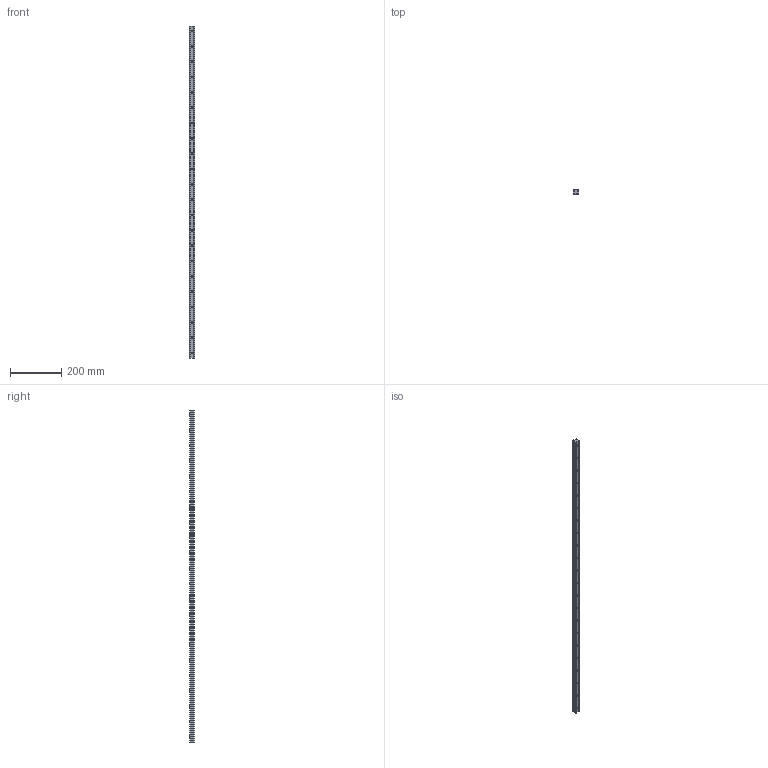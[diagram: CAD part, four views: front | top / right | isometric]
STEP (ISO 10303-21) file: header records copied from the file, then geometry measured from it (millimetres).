
FILE_DESCRIPTION (( 'STEP AP203' ), '1' );
FILE_NAME ('L1016.BL20-1300.step', '2019-06-12T11:48:58', ( '' ), ( '' ), 'SwSTEP 2.0', 'SolidWorks 2017', '' );
FILE_SCHEMA (( 'CONFIG_CONTROL_DESIGN' ));
Length unit declared in the file: millimetre
Products named in the file (1): L1016.BL20-1300
Bounding box: 20 x 16.3 x 1300 mm (x, y, z)
Volume: 361216 mm3; surface area: 104952.4 mm2
Topology: 1 solids, 1 shells, 136 faces, 336 edges, 224 vertices
Faces by surface type: cylinder 92, plane 44
Entity records: 4289 total; most frequent: DIRECTION 794, CARTESIAN_POINT 697, ORIENTED_EDGE 672, EDGE_CURVE 336, AXIS2_PLACEMENT_3D 321, VERTEX_POINT 224, EDGE_LOOP 202, CIRCLE 184
